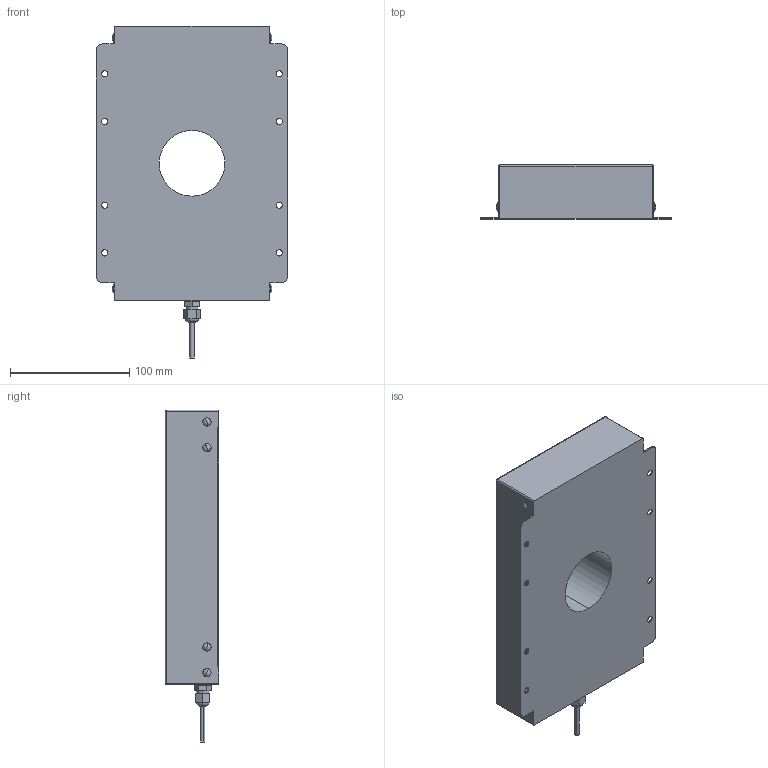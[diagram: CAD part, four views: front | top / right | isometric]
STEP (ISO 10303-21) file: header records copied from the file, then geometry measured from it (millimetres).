
FILE_DESCRIPTION (( 'STEP AP203' ), '1' );
FILE_NAME ('HDSBPA-200x100_-24-55D.STEP', '2023-04-18T05:51:52', ( '' ), ( '' ), 'SwSTEP 2.0', 'SolidWorks 2022', '' );
FILE_SCHEMA (( 'CONFIG_CONTROL_DESIGN' ));
Length unit declared in the file: millimetre
Products named in the file (1): HDSBPA-200x100_-24-55D
Bounding box: 160 x 45 x 278 mm (x, y, z)
Volume: 1229273.8 mm3; surface area: 108298.1 mm2
Topology: 1 solids, 1 shells, 122 faces, 322 edges, 196 vertices
Faces by surface type: cylinder 52, plane 48, sphere 20, torus 2
Entity records: 3705 total; most frequent: DIRECTION 686, CARTESIAN_POINT 605, ORIENTED_EDGE 588, EDGE_CURVE 294, AXIS2_PLACEMENT_3D 269, VERTEX_POINT 188, EDGE_LOOP 154, LINE 148
